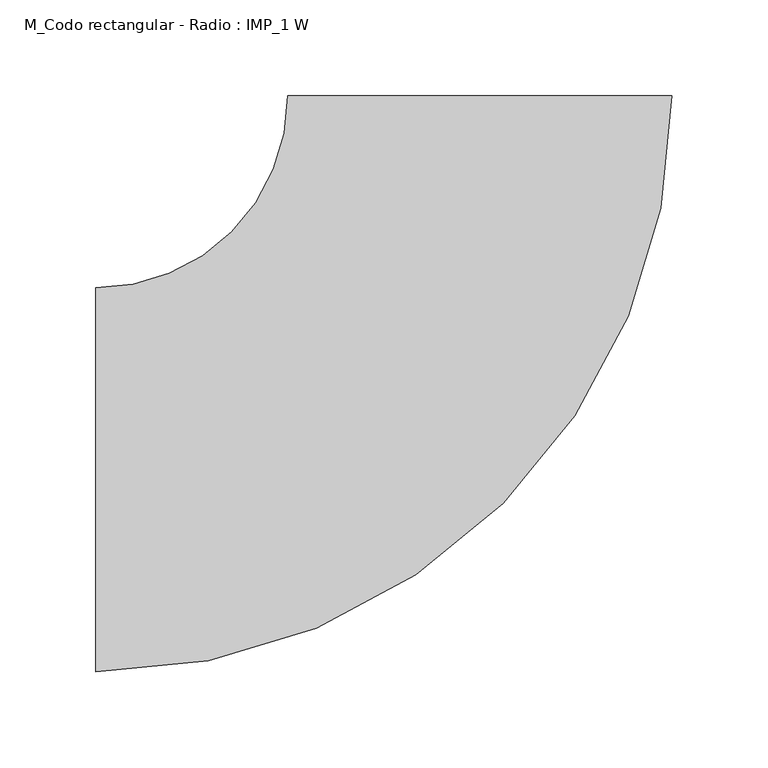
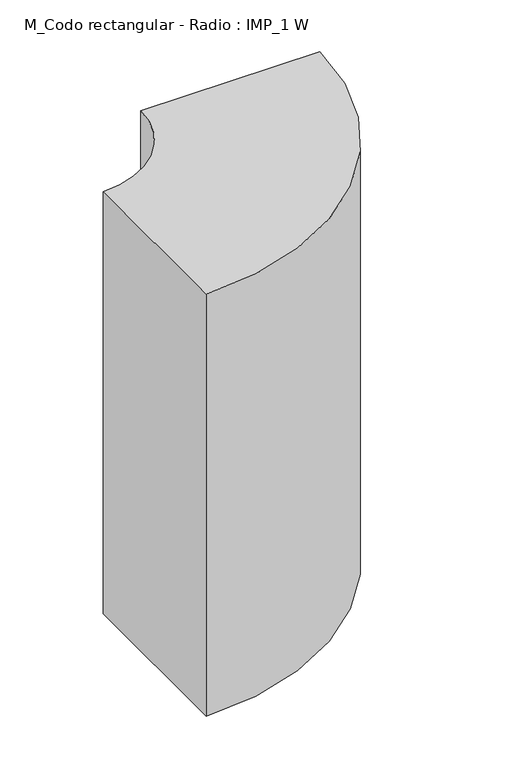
"""IFC4 building model written with IfcOpenShell, lengths in millimetres: duct fitting geometry, M_Codo rectangular - Radio : IMP_1 W."""

from ifc_helpers import new_model, si_unit, point, frame, frame_2d, origin, place, context, project, spatial, polyline, circle_curve, trimmed, segment, composite_curve, outline, extrude, source, transform, mapped, element, save


def m_codo_rectangular_radio_imp_1_w_f5781791(model_context):
    return source(origin(), model_context, "Body", "SweptSolid", [
        extrude(outline(composite_curve([segment(trimmed(circle_curve(frame_2d((-200.0, 200.0)), 300.0), [point((100.0, 200.0))], [point((-200.0, -100.0))], False, "CARTESIAN"), True, "CONTINUOUS"), segment(polyline([(-200.0, -100.0), (-200.0, 100.0)]), True, "CONTINUOUS"), segment(trimmed(circle_curve(frame_2d((-200.0, 200.0)), 100.0), [point((-200.0, 100.0))], [point((-100.0, 200.0))], True, "CARTESIAN"), True, "CONTINUOUS"), segment(polyline([(-100.0, 200.0), (100.0, 200.0)]), True, "CONTINUOUS")], self_intersect=False)), frame((0.0, 0.0, -250.0), z_axis=(0.0, 0.0, 1.0), x_axis=(1.0, 0.0, 0.0)), (0.0, 0.0, 1.0), 500.0),
    ])


if __name__ == "__main__":
    model = new_model("IFC4")
    model_context = context("Model", 3, world=origin())
    ifc_project = project(units=[si_unit("LENGTHUNIT", "METRE", prefix="MILLI")], contexts=[model_context])
    site = spatial("IfcSite", under=ifc_project)
    building = spatial("IfcBuilding", under=site)
    placement = place(None, origin())
    m_codo_rectangular_radio_imp_1_w_shape = m_codo_rectangular_radio_imp_1_w_f5781791(model_context)
    element("IfcDuctFitting", 1, ObjectType="M_Codo rectangular - Radio : IMP_1 W", at=placement, inside=building, context=model_context, shape_type="MappedRepresentation", body=[
        mapped(m_codo_rectangular_radio_imp_1_w_shape, transform((0.0, 0.0, 0.0), x_axis=(1.0, 0.0, 0.0), y_axis=(0.0, 1.0, 0.0), z_axis=(0.0, 0.0, 1.0))),
    ])
    save(model, "model.ifc")
